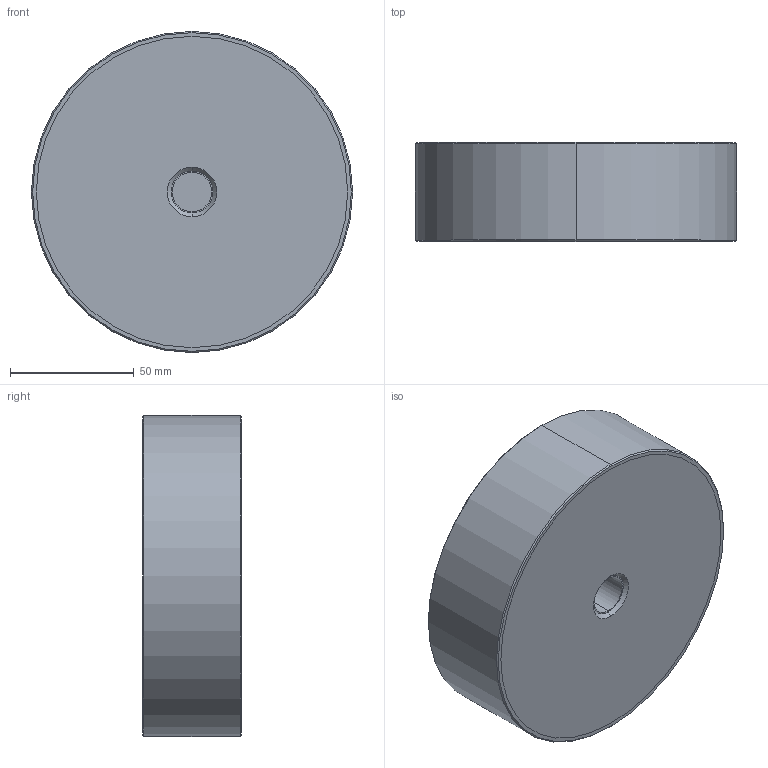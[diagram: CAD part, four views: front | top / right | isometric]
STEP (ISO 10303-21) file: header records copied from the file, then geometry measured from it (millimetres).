
FILE_DESCRIPTION (( 'STEP AP203' ), '1' );
FILE_NAME ('61080.W0931.step', '2018-07-16T20:47:50', ( '' ), ( '' ), 'SwSTEP 2.0', 'SolidWorks 2017', '' );
FILE_SCHEMA (( 'CONFIG_CONTROL_DESIGN' ));
Length unit declared in the file: millimetre
Products named in the file (4): Part1_61080.W0931; Part3_61080.W0931; 61080.W0931; Part2_61080.W0931
Assembly tree (3 placements, depth 2):
  61080.W0931
    Part1_61080.W0931
    Part2_61080.W0931
    Part3_61080.W0931
Bounding box: 130 x 40 x 130 mm (x, y, z)
Volume: 524188.3 mm3; surface area: 95515.8 mm2
Topology: 3 solids, 3 shells, 32 faces, 62 edges, 40 vertices
Faces by surface type: cylinder 14, plane 10, cone 8
Entity records: 1256 total; most frequent: DIRECTION 178, CARTESIAN_POINT 140, ORIENTED_EDGE 124, AXIS2_PLACEMENT_3D 78, EDGE_CURVE 62, EDGE_LOOP 40, CIRCLE 40, VERTEX_POINT 40
